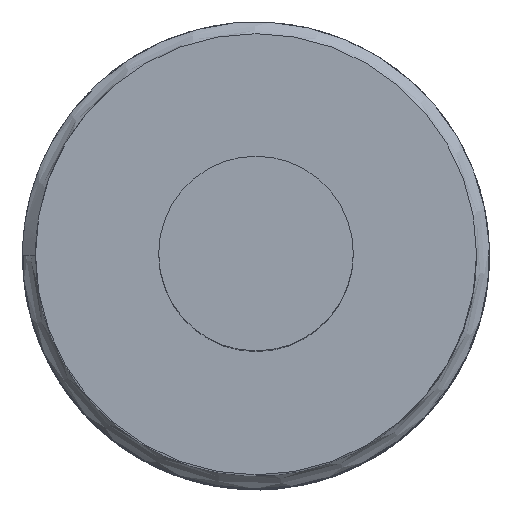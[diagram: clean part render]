
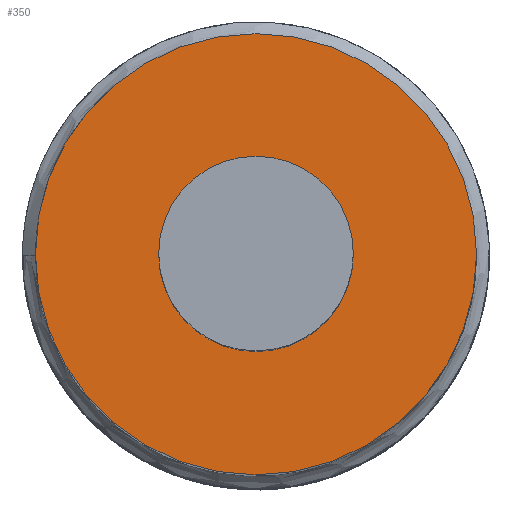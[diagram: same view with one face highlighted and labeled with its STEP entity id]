
A CAD part, top view. The second image highlights one B-rep face of the part: STEP entity #350.
In plain terms, the highlighted planar face has unit normal (0, 0, 1).
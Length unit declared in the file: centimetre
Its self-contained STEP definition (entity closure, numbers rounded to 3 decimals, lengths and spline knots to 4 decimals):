
#272=VERTEX_POINT('',#4693);
#273=VERTEX_POINT('',#4697);
#288=EDGE_CURVE('',#272,#272,#420,.T.);
#289=EDGE_CURVE('',#273,#273,#421,.T.);
#314=ORIENTED_EDGE('',*,*,#288,.T.);
#315=ORIENTED_EDGE('',*,*,#289,.F.);
#327=EDGE_LOOP('',(#314));
#328=EDGE_LOOP('',(#315));
#340=FACE_BOUND('',#327,.T.);
#341=FACE_BOUND('',#328,.T.);
#350=ADVANCED_FACE('',(#340,#341),#667,.T.);
#420=CIRCLE('',#620,0.375);
#421=CIRCLE('',#623,0.85);
#620=AXIS2_PLACEMENT_3D('',#4692,#799,#800);
#623=AXIS2_PLACEMENT_3D('',#4696,#804,#805);
#625=AXIS2_PLACEMENT_3D('',#4700,#808,$);
#667=PLANE('',#625);
#799=DIRECTION('',(0.,0.,-1.));
#800=DIRECTION('',(0.375,0.,0.));
#804=DIRECTION('',(0.,0.,-1.));
#805=DIRECTION('',(0.85,0.,0.));
#808=DIRECTION('',(0.,0.,1.));
#4692=CARTESIAN_POINT('',(0.,0.,5.4));
#4693=CARTESIAN_POINT('',(0.375,0.,5.4));
#4696=CARTESIAN_POINT('',(0.,0.,5.4));
#4697=CARTESIAN_POINT('',(0.85,0.,5.4));
#4700=CARTESIAN_POINT('',(0.,0.,5.4));
